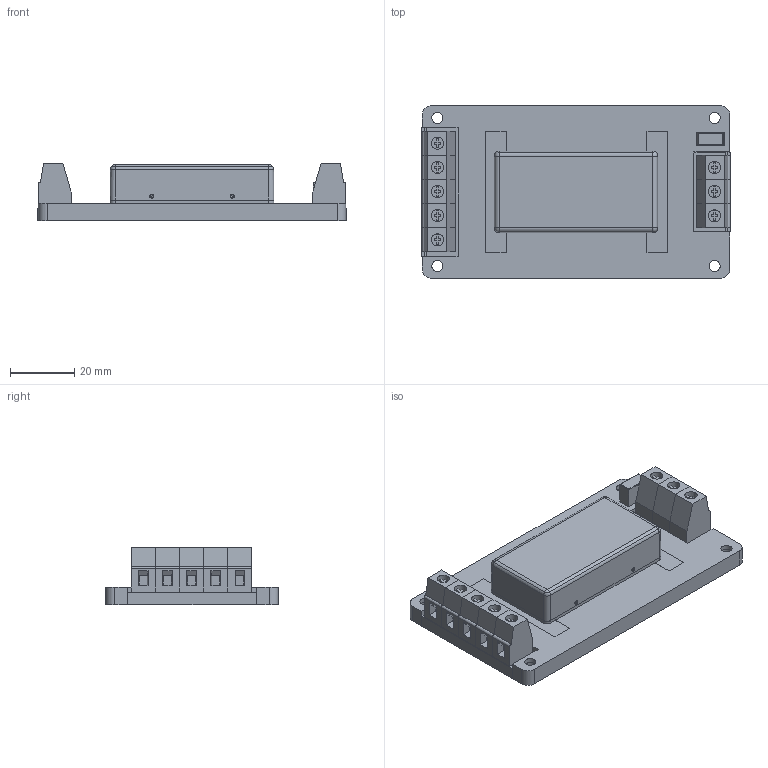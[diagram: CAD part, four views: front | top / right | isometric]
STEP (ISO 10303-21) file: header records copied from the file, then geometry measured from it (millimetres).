
FILE_DESCRIPTION(/* description */ (''),/* implementation_level */ '2;1');
FILE_NAME(/* name */ 'D:\Inventor\3D Files\200508\ST50F - A2.stp',/* time_stamp */ '2020-04-23T11:28:11+08:00',/* author */ ('peter'),/* organization */ (''),/* preprocessor_version */ 'ST-DEVELOPER v15.2',/* originating_system */ 'Autodesk Inventor 2014',/* authorisation */ '');
FILE_SCHEMA (('AUTOMOTIVE_DESIGN { 1 0 10303 214 3 1 1 }'));
Length unit declared in the file: millimetre
Products named in the file (10): PCB; TOP CASE - A2; BOT CASE - A2 _ TRACO; DT-128-01; INLET - A2 - IN; INLET - A2 - OUT; HOLDER - AHC AFC; A2 ASSEMBLY; ST50F; ST50F - A2
Bounding box: 95.8 x 53.5 x 18 mm (x, y, z)
Volume: 30657 mm3; surface area: 47199.5 mm2
Topology: 14 solids, 15 shells, 655 faces, 1671 edges, 1100 vertices
Faces by surface type: plane 540, cylinder 89, torus 10, sphere 8, bspline 8
Full cylindrical faces by diameter (mm): 1.2 x12, 1.39 x4, 3.476 x4, 3.5 x8, 3.8 x8, 3.972 x1, 5.5 x4
Entity records: 11247 total; most frequent: CARTESIAN_POINT 2021, DIRECTION 1827, ORIENTED_EDGE 1774, EDGE_CURVE 887, LINE 707, VECTOR 707, VERTEX_POINT 610, AXIS2_PLACEMENT_3D 560
